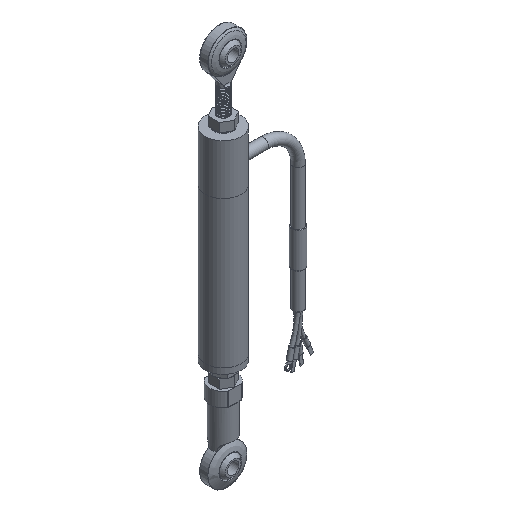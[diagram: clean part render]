
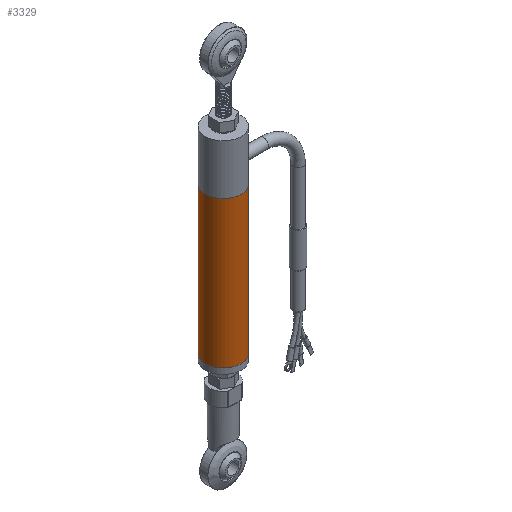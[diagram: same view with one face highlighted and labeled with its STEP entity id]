
A CAD part, isometric view. The second image highlights one B-rep face of the part: STEP entity #3329.
In plain terms, the highlighted cylindrical face has radius 6.35 mm (diameter 12.7 mm), a full revolution.
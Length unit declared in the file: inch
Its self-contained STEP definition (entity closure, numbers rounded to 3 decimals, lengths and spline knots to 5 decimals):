
#248=LINE('',#8165,#453);
#453=VECTOR('',#4234,0.25);
#633=CYLINDRICAL_SURFACE('',#3719,0.25);
#744=FACE_OUTER_BOUND('',#956,.T.);
#956=EDGE_LOOP('',(#2470,#2471,#2472,#2473,#2474));
#1140=CIRCLE('',#3711,0.25);
#1142=CIRCLE('',#3717,0.25);
#1143=CIRCLE('',#3718,0.25);
#1463=VERTEX_POINT('',#8108);
#1468=VERTEX_POINT('',#8159);
#1469=VERTEX_POINT('',#8161);
#1826=EDGE_CURVE('',#1463,#1463,#1140,.T.);
#1833=EDGE_CURVE('',#1469,#1468,#1142,.T.);
#1834=EDGE_CURVE('',#1468,#1469,#1143,.T.);
#1835=EDGE_CURVE('',#1463,#1469,#248,.T.);
#2470=ORIENTED_EDGE('',*,*,#1826,.F.);
#2471=ORIENTED_EDGE('',*,*,#1835,.T.);
#2472=ORIENTED_EDGE('',*,*,#1833,.T.);
#2473=ORIENTED_EDGE('',*,*,#1834,.T.);
#2474=ORIENTED_EDGE('',*,*,#1835,.F.);
#3329=ADVANCED_FACE('',(#744),#633,.T.);
#3711=AXIS2_PLACEMENT_3D('',#8110,#4214,#4215);
#3717=AXIS2_PLACEMENT_3D('',#8162,#4228,#4229);
#3718=AXIS2_PLACEMENT_3D('',#8163,#4230,#4231);
#3719=AXIS2_PLACEMENT_3D('',#8164,#4232,#4233);
#4214=DIRECTION('center_axis',(0.,0.,-1.));
#4215=DIRECTION('ref_axis',(-1.,0.,0.));
#4228=DIRECTION('center_axis',(0.,0.,-1.));
#4229=DIRECTION('ref_axis',(-1.,0.,0.));
#4230=DIRECTION('center_axis',(0.,0.,-1.));
#4231=DIRECTION('ref_axis',(-1.,0.,0.));
#4232=DIRECTION('center_axis',(0.,0.,-1.));
#4233=DIRECTION('ref_axis',(-1.,0.,0.));
#4234=DIRECTION('',(0.,0.,1.));
#8108=CARTESIAN_POINT('',(0.25,0.,-2.74803));
#8110=CARTESIAN_POINT('Origin',(0.,0.,-2.74803));
#8159=CARTESIAN_POINT('',(-0.25,0.,-0.7));
#8161=CARTESIAN_POINT('',(0.25,0.,-0.7));
#8162=CARTESIAN_POINT('Origin',(0.,0.,-0.7));
#8163=CARTESIAN_POINT('Origin',(0.,0.,-0.7));
#8164=CARTESIAN_POINT('Origin',(0.,0.,0.));
#8165=CARTESIAN_POINT('',(0.25,0.,0.));
